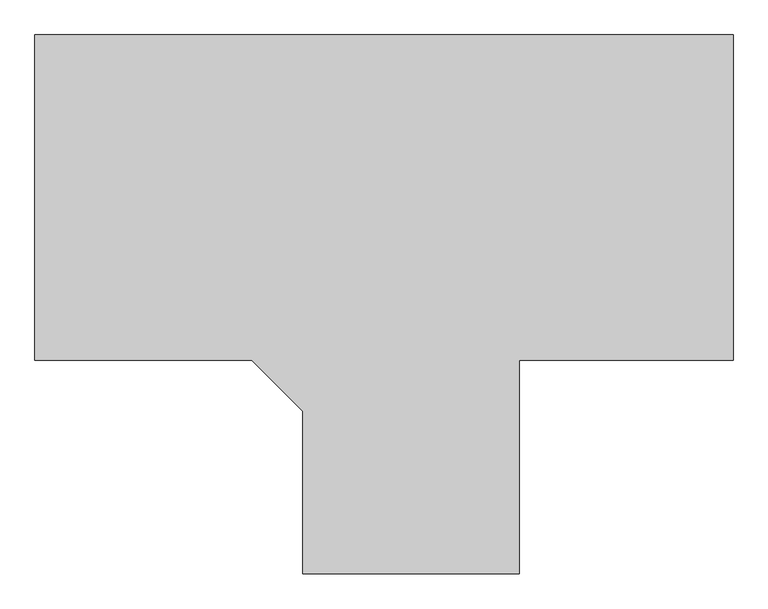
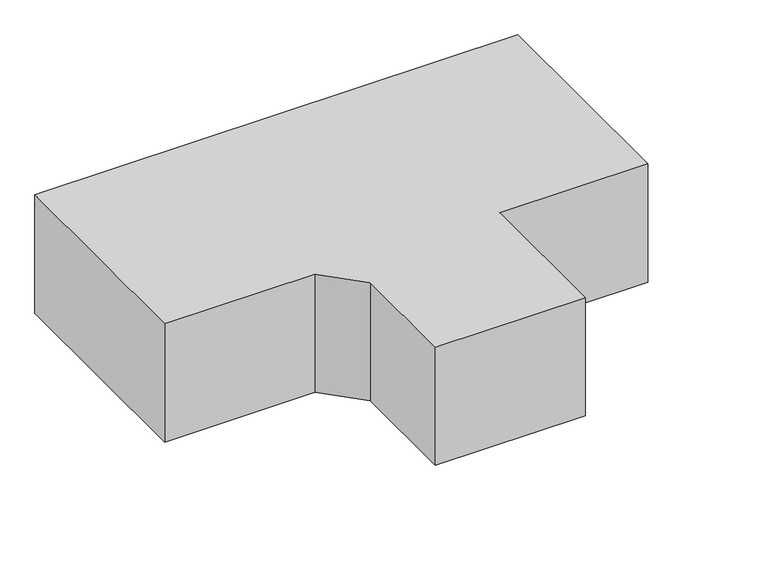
"""IFC4 building model written with IfcOpenShell, lengths in millimetres: duct fitting geometry, 2017_Te_Climaver_Te-Rectangular-Ramificación-Simple : Te_Ramificación-Simple-R_Cimaver."""

from ifc_helpers import new_model, si_unit, frame, origin, place, context, project, spatial, polyline, outline, extrude, source, transform, mapped, element, save


def duct_fitting_5d6656e4(model_context):
    return source(origin(), model_context, "Body", "SweptSolid", [
        extrude(outline(polyline([(-1041.4213562, -450.0), (-1041.4213562, 450.0), (891.4213562, 450.0), (891.4213562, -450.0), (300.0, -450.0), (300.0, -1041.4213562), (-300.0, -1041.4213562), (-300.0, -591.4213562), (-441.4213562, -450.0), (-1041.4213562, -450.0)])), frame((0.0, 0.0, -250.0), z_axis=(0.0, 0.0, 1.0), x_axis=(1.0, 0.0, 0.0)), (0.0, 0.0, 1.0), 500.0),
    ])


if __name__ == "__main__":
    model = new_model("IFC4")
    model_context = context("Model", 3, world=origin())
    ifc_project = project(units=[si_unit("LENGTHUNIT", "METRE", prefix="MILLI")], contexts=[model_context])
    site = spatial("IfcSite", under=ifc_project)
    building = spatial("IfcBuilding", under=site)
    placement = place(None, origin())
    duct_fitting_shape = duct_fitting_5d6656e4(model_context)
    element("IfcDuctFitting", 1, ObjectType="2017_Te_Climaver_Te-Rectangular-Ramificación-Simple : Te_Ramificación-Simple-R_Cimaver", at=placement, inside=building, context=model_context, shape_type="MappedRepresentation", body=[
        mapped(duct_fitting_shape, transform((0.0, 0.0, 0.0), x_axis=(1.0, 0.0, 0.0), y_axis=(0.0, 1.0, 0.0), z_axis=(0.0, 0.0, 1.0))),
    ])
    save(model, "model.ifc")
